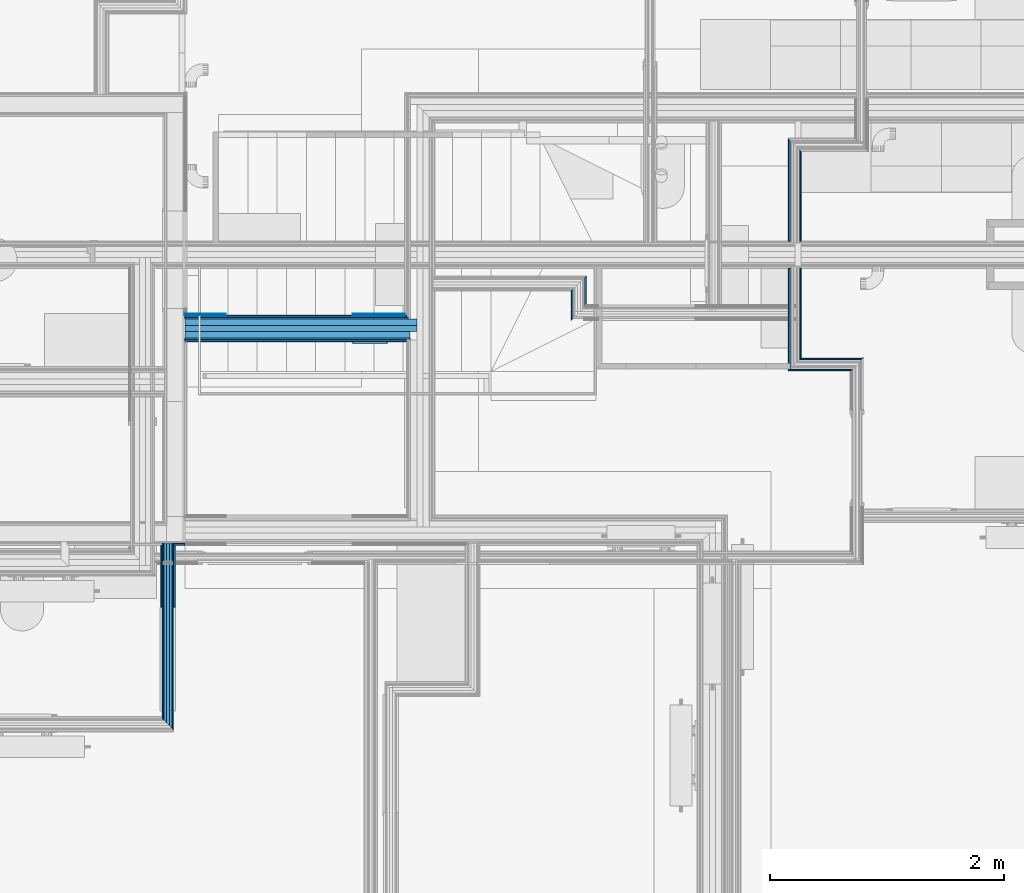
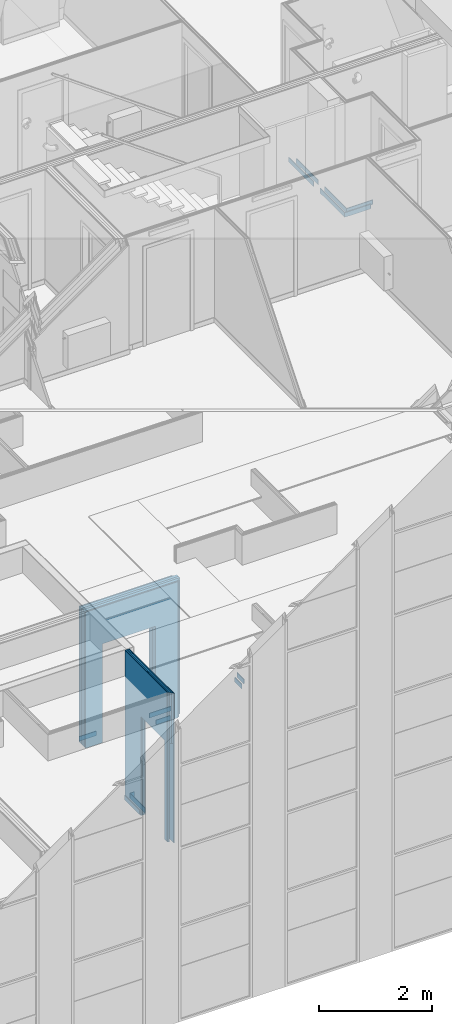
# One storey, part 63 of 169: 25 building element parts, 2 openings, 7 elements without a shape of their own.
"""IFC2X3 building model written with IfcOpenShell, lengths in metres."""

from ifc_helpers import new_model, entity, si_unit, converted_unit, derived_unit, money_unit, direction, frame, frame_2d, origin_with_axes, place, context, subcontext, project, spatial, polyline, rectangle, outline, extrude, material, type_object, element, aggregate, save


model = new_model("IFC2X3")

# Units and contexts
model_context = context("Model", 3, precision=1e-05, world=origin_with_axes(), true_north=direction((0.0, 1.0)))
body_context = subcontext(model_context, "Body", "Model", "MODEL_VIEW", scale=1.0)
ifc_project = project(units=[si_unit("LENGTHUNIT", "METRE"), si_unit("AREAUNIT", "SQUARE_METRE"), si_unit("VOLUMEUNIT", "CUBIC_METRE"), si_unit("ABSORBEDDOSEUNIT", "GRAY"), si_unit("AMOUNTOFSUBSTANCEUNIT", "MOLE"), si_unit("DOSEEQUIVALENTUNIT", "SIEVERT"), si_unit("ELECTRICCAPACITANCEUNIT", "FARAD"), si_unit("ELECTRICCHARGEUNIT", "COULOMB"), si_unit("ELECTRICCONDUCTANCEUNIT", "SIEMENS"), si_unit("ELECTRICCURRENTUNIT", "AMPERE"), si_unit("ELECTRICRESISTANCEUNIT", "OHM"), si_unit("ELECTRICVOLTAGEUNIT", "VOLT"), si_unit("ENERGYUNIT", "JOULE"), si_unit("FORCEUNIT", "NEWTON"), si_unit("FREQUENCYUNIT", "HERTZ"), si_unit("ILLUMINANCEUNIT", "LUX"), si_unit("INDUCTANCEUNIT", "HENRY"), si_unit("LUMINOUSFLUXUNIT", "LUMEN"), si_unit("LUMINOUSINTENSITYUNIT", "CANDELA"), si_unit("MAGNETICFLUXDENSITYUNIT", "TESLA"), si_unit("MAGNETICFLUXUNIT", "WEBER"), si_unit("MASSUNIT", "GRAM"), converted_unit("PLANEANGLEUNIT", "degree", entity("IfcReal", 0.0174532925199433), si_unit("PLANEANGLEUNIT", "RADIAN"), dimensions=[0, 0, 0, 0, 0, 0, 0]), si_unit("POWERUNIT", "WATT"), si_unit("PRESSUREUNIT", "PASCAL"), si_unit("RADIOACTIVITYUNIT", "BECQUEREL"), si_unit("SOLIDANGLEUNIT", "STERADIAN"), si_unit("THERMODYNAMICTEMPERATUREUNIT", "KELVIN"), si_unit("TIMEUNIT", "SECOND"), derived_unit("ACCELERATIONUNIT", [(si_unit("LENGTHUNIT", "METRE"), 1), (si_unit("TIMEUNIT", "SECOND"), -2)]), derived_unit("ANGULARVELOCITYUNIT", [(converted_unit("PLANEANGLEUNIT", "degree", entity("IfcReal", 0.0174532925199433), si_unit("PLANEANGLEUNIT", "RADIAN"), dimensions=[0, 0, 0, 0, 0, 0, 0]), 1), (si_unit("TIMEUNIT", "SECOND"), -1)]), derived_unit("CURVATUREUNIT", [(converted_unit("PLANEANGLEUNIT", "degree", entity("IfcReal", 0.0174532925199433), si_unit("PLANEANGLEUNIT", "RADIAN"), dimensions=[0, 0, 0, 0, 0, 0, 0]), 1), (si_unit("LENGTHUNIT", "METRE"), -1)]), derived_unit("DYNAMICVISCOSITYUNIT", [(si_unit("PRESSUREUNIT", "PASCAL"), 1), (si_unit("TIMEUNIT", "SECOND"), 1)]), derived_unit("HEATFLUXDENSITYUNIT", [(si_unit("POWERUNIT", "WATT"), 1), (si_unit("LENGTHUNIT", "METRE"), -2)]), derived_unit("HEATINGVALUEUNIT", [(si_unit("ENERGYUNIT", "JOULE"), 1), (si_unit("MASSUNIT", "GRAM"), -1)]), derived_unit("INTEGERCOUNTRATEUNIT", [(si_unit("TIMEUNIT", "SECOND"), -1)]), derived_unit("IONCONCENTRATIONUNIT", [(si_unit("MASSUNIT", "GRAM"), 1), (si_unit("VOLUMEUNIT", "CUBIC_METRE"), -1)]), derived_unit("ISOTHERMALMOISTURECAPACITYUNIT", [(si_unit("VOLUMEUNIT", "CUBIC_METRE"), 1), (si_unit("MASSUNIT", "GRAM"), -1)]), derived_unit("KINEMATICVISCOSITYUNIT", [(si_unit("AREAUNIT", "SQUARE_METRE"), 1), (si_unit("TIMEUNIT", "SECOND"), -1)]), derived_unit("LINEARFORCEUNIT", [(si_unit("FORCEUNIT", "NEWTON"), 1), (si_unit("LENGTHUNIT", "METRE"), -1)]), derived_unit("LINEARMOMENTUNIT", [(si_unit("FORCEUNIT", "NEWTON"), 1), (si_unit("LENGTHUNIT", "METRE"), -1)]), derived_unit("LINEARSTIFFNESSUNIT", [(si_unit("FORCEUNIT", "NEWTON"), 1), (si_unit("LENGTHUNIT", "METRE"), -1)]), derived_unit("LINEARVELOCITYUNIT", [(si_unit("LENGTHUNIT", "METRE"), 1), (si_unit("TIMEUNIT", "SECOND"), -1)]), derived_unit("LUMINOUSINTENSITYDISTRIBUTIONUNIT", [(si_unit("LUMINOUSINTENSITYUNIT", "CANDELA"), 1), (si_unit("LUMINOUSFLUXUNIT", "LUMEN"), -1)]), derived_unit("MASSDENSITYUNIT", [(si_unit("MASSUNIT", "GRAM"), 1), (si_unit("VOLUMEUNIT", "CUBIC_METRE"), -1)]), derived_unit("MASSFLOWRATEUNIT", [(si_unit("MASSUNIT", "GRAM"), 1), (si_unit("TIMEUNIT", "SECOND"), -1)]), derived_unit("MASSPERLENGTHUNIT", [(si_unit("MASSUNIT", "GRAM"), 1), (si_unit("LENGTHUNIT", "METRE"), -1)]), derived_unit("MODULUSOFELASTICITYUNIT", [(si_unit("FORCEUNIT", "NEWTON"), 1), (si_unit("AREAUNIT", "SQUARE_METRE"), -1)]), derived_unit("MODULUSOFLINEARSUBGRADEREACTIONUNIT", [(si_unit("FORCEUNIT", "NEWTON"), 1), (si_unit("LENGTHUNIT", "METRE"), -2)]), derived_unit("MODULUSOFROTATIONALSUBGRADEREACTIONUNIT", [(si_unit("FORCEUNIT", "NEWTON"), 1), (si_unit("LENGTHUNIT", "METRE"), 1)]), derived_unit("MODULUSOFSUBGRADEREACTIONUNIT", [(si_unit("FORCEUNIT", "NEWTON"), 1), (si_unit("VOLUMEUNIT", "CUBIC_METRE"), -1)]), derived_unit("MOISTUREDIFFUSIVITYUNIT", [(si_unit("VOLUMEUNIT", "CUBIC_METRE"), 1), (si_unit("TIMEUNIT", "SECOND"), -1)]), derived_unit("MOLECULARWEIGHTUNIT", [(si_unit("MASSUNIT", "GRAM"), 1), (si_unit("AMOUNTOFSUBSTANCEUNIT", "MOLE"), -1)]), derived_unit("PLANARFORCEUNIT", [(si_unit("FORCEUNIT", "NEWTON"), 1), (si_unit("LENGTHUNIT", "METRE"), -2)]), derived_unit("ROTATIONALFREQUENCYUNIT", [(si_unit("TIMEUNIT", "SECOND"), -1)]), derived_unit("ROTATIONALMASSUNIT", [(si_unit("MASSUNIT", "GRAM"), 1), (si_unit("LENGTHUNIT", "METRE"), 2)]), derived_unit("ROTATIONALSTIFFNESSUNIT", [(si_unit("FORCEUNIT", "NEWTON"), 1), (si_unit("LENGTHUNIT", "METRE"), 1), (converted_unit("PLANEANGLEUNIT", "degree", entity("IfcReal", 0.0174532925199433), si_unit("PLANEANGLEUNIT", "RADIAN"), dimensions=[0, 0, 0, 0, 0, 0, 0]), -1)]), derived_unit("SECTIONAREAINTEGRALUNIT", [(si_unit("LENGTHUNIT", "METRE"), 5)]), derived_unit("SECTIONMODULUSUNIT", [(si_unit("LENGTHUNIT", "METRE"), 3)]), derived_unit("SHEARMODULUSUNIT", [(si_unit("FORCEUNIT", "NEWTON"), 1), (si_unit("AREAUNIT", "SQUARE_METRE"), -1)]), derived_unit("SOUNDPOWERUNIT", [(si_unit("ENERGYUNIT", "JOULE"), 1), (si_unit("TIMEUNIT", "SECOND"), -1)]), derived_unit("SPECIFICHEATCAPACITYUNIT", [(si_unit("FORCEUNIT", "NEWTON"), 1), (si_unit("MASSUNIT", "GRAM"), -1), (si_unit("THERMODYNAMICTEMPERATUREUNIT", "KELVIN"), -1)]), derived_unit("TEMPERATUREGRADIENTUNIT", [(si_unit("THERMODYNAMICTEMPERATUREUNIT", "KELVIN"), 1), (si_unit("LENGTHUNIT", "METRE"), -1)]), derived_unit("THERMALADMITTANCEUNIT", [(si_unit("POWERUNIT", "WATT"), 1), (si_unit("AREAUNIT", "SQUARE_METRE"), -1), (si_unit("THERMODYNAMICTEMPERATUREUNIT", "KELVIN"), -1)]), derived_unit("THERMALCONDUCTANCEUNIT", [(si_unit("POWERUNIT", "WATT"), 1), (si_unit("LENGTHUNIT", "METRE"), -1), (si_unit("THERMODYNAMICTEMPERATUREUNIT", "KELVIN"), -1)]), derived_unit("THERMALEXPANSIONCOEFFICIENTUNIT", [(si_unit("THERMODYNAMICTEMPERATUREUNIT", "KELVIN"), -1)]), derived_unit("THERMALRESISTANCEUNIT", [(si_unit("AREAUNIT", "SQUARE_METRE"), 1), (si_unit("POWERUNIT", "WATT"), -1)]), derived_unit("THERMALTRANSMITTANCEUNIT", [(si_unit("POWERUNIT", "WATT"), 1), (si_unit("AREAUNIT", "SQUARE_METRE"), -1), (si_unit("THERMODYNAMICTEMPERATUREUNIT", "KELVIN"), -1)]), derived_unit("TORQUEUNIT", [(si_unit("FORCEUNIT", "NEWTON"), 1), (si_unit("LENGTHUNIT", "METRE"), 1)]), derived_unit("VAPORPERMEABILITYUNIT", [(si_unit("MASSUNIT", "GRAM"), 1), (si_unit("TIMEUNIT", "SECOND"), -1)]), derived_unit("VOLUMETRICFLOWRATEUNIT", [(si_unit("VOLUMEUNIT", "CUBIC_METRE"), 1), (si_unit("TIMEUNIT", "SECOND"), -1)]), derived_unit("WARPINGCONSTANTUNIT", [(si_unit("LENGTHUNIT", "METRE"), 6)]), derived_unit("WARPINGMOMENTUNIT", [(si_unit("FORCEUNIT", "NEWTON"), 1), (si_unit("LENGTHUNIT", "METRE"), 2)]), money_unit("GBP")], contexts=[model_context])

# Site, building, storey
site_placement = place(None, origin_with_axes())
site = spatial("IfcSite", under=ifc_project, at=site_placement, Name="Site", CompositionType="ELEMENT")
building_placement = place(site_placement, origin_with_axes())
building = spatial("IfcBuilding", under=site, at=building_placement, Name="Building01", CompositionType="ELEMENT")
storey_placement = place(building_placement, frame((0.0, 0.0, 5.15), z_axis=(0.0, 0.0, 1.0), x_axis=(1.0, 0.0, 0.0)))
storey = spatial("IfcBuildingStorey", under=building, at=storey_placement, Name="1F", CompositionType="ELEMENT", Elevation=5.15)

# Wall, opening, building element parts
wall_type_1 = type_object("IfcWallType", Name="SHE_A-Walls_Type01c_Partywall_225mm_twin_tall", PredefinedType="NOTDEFINED")
wall_1_placement = place(storey_placement, frame((18.0, 6.793, 0.0), z_axis=(0.0, 0.0, 1.0), x_axis=(1.0, 0.0, 0.0)))
wall_1 = element("IfcWall", 1, at=wall_1_placement, inside=storey, type_object=wall_type_1, Name="1C", ObjectType="SHE_A-Walls_Type01c_Partywall_225mm_twin_tall")
opening_1_placement = place(wall_1_placement, frame((0.353, -0.103, -0.03), z_axis=(0.0, 0.0, 1.0), x_axis=(1.0, 0.0, 0.0)))
element("IfcOpeningElement", 2, at=opening_1_placement, cuts=wall_1, Name="Opening", ObjectType="Opening", context=body_context, shape_type="SweptSolid", body=[
    extrude(rectangle(XDim=2.142, YDim=1.081, at=frame_2d((-0.5405, 1.071), x_axis=(0.0, -1.0))), frame((0.0, 0.0, 0.0), z_axis=(0.0, 1.0, 0.0), x_axis=(-1.0, 0.0, 0.0)), (0.0, 0.0, 1.0), 0.255),
    extrude(rectangle(XDim=1.084, YDim=2.172, at=frame_2d((-0.539, 1.086), x_axis=(1.0, 0.0))), frame((0.0, 0.015, 0.0), z_axis=(0.0, 1.0, 0.0), x_axis=(-1.0, 0.0, 0.0)), (0.0, 0.0, 1.0), 0.015),
    extrude(rectangle(XDim=2.142, YDim=1.084, at=frame_2d((-0.542, 1.071), x_axis=(0.0, -1.0))), frame((0.0, 0.0, 0.0), z_axis=(0.0, 1.0, 0.0), x_axis=(-1.0, 0.0, 0.0)), (0.0, 0.0, 1.0), 0.015),
    extrude(outline(polyline([(0.0, 0.03), (0.003, 0.03), (0.003, 2.172), (-1.081, 2.172), (-1.081, 2.142), (-1.084, 2.142), (-1.084, 0.0), (0.0, 0.0), (0.0, 0.03)])), frame((0.0, 0.03, 0.0), z_axis=(0.0, 1.0, 0.0), x_axis=(-1.0, 0.0, 0.0)), (0.0, 0.0, 1.0), 0.015),
    extrude(outline(polyline([(0.0, 0.03), (0.003, 0.03), (0.003, 2.172), (-1.081, 2.172), (-1.081, 2.142), (-1.084, 2.142), (-1.084, 0.0), (0.0, 0.0), (0.0, 0.03)])), frame((0.0, 0.045, 0.0), z_axis=(0.0, 1.0, 0.0), x_axis=(-1.0, 0.0, 0.0)), (0.0, 0.0, 1.0), 0.058),
    extrude(outline(polyline([(0.0, 0.03), (0.003, 0.03), (0.003, 2.172), (-1.081, 2.172), (-1.081, 2.142), (-1.084, 2.142), (-1.084, 0.0), (0.0, 0.0), (0.0, 0.03)])), frame((0.0, 0.103, 0.0), z_axis=(0.0, 1.0, 0.0), x_axis=(-1.0, 0.0, 0.0)), (0.0, 0.0, 1.0), 0.05),
    extrude(outline(polyline([(0.0, 0.03), (0.003, 0.03), (0.003, 2.172), (-1.081, 2.172), (-1.081, 2.142), (-1.084, 2.142), (-1.084, 0.0), (0.0, 0.0), (0.0, 0.03)])), frame((0.0, 0.153, 0.0), z_axis=(0.0, 1.0, 0.0), x_axis=(-1.0, 0.0, 0.0)), (0.0, 0.0, 1.0), 0.057),
    extrude(outline(polyline([(0.0, 0.03), (0.003, 0.03), (0.003, 2.172), (-1.081, 2.172), (-1.081, 2.142), (-1.084, 2.142), (-1.084, 0.0), (0.0, 0.0), (0.0, 0.03)])), frame((0.0, 0.21, 0.0), z_axis=(0.0, 1.0, 0.0), x_axis=(-1.0, 0.0, 0.0)), (0.0, 0.0, 1.0), 0.015),
    extrude(rectangle(XDim=1.084, YDim=2.172, at=frame_2d((-0.539, 1.086), x_axis=(1.0, 0.0))), frame((0.0, 0.225, 0.0), z_axis=(0.0, 1.0, 0.0), x_axis=(-1.0, 0.0, 0.0)), (0.0, 0.0, 1.0), 0.015),
    extrude(outline(polyline([(0.0, 0.03), (0.003, 0.03), (0.003, 2.172), (-1.081, 2.172), (-1.081, 2.142), (-1.084, 2.142), (-1.084, 0.0), (0.0, 0.0), (0.0, 0.03)])), frame((0.0, 0.24, 0.0), z_axis=(0.0, 1.0, 0.0), x_axis=(-1.0, 0.0, 0.0)), (0.0, 0.0, 1.0), 0.015),
])
ifc_material_1 = material(Name="A_BSUK_Walls_Timber")
placement_1 = place(wall_1_placement, origin_with_axes())
building_element_part_1 = element("IfcBuildingElementPart", 3, at=placement_1, material=ifc_material_1, Name="1", context=body_context, shape_type="SweptSolid", body=[
    extrude(rectangle(XDim=0.401969, YDim=0.015, at=frame_2d((1.529984, -0.0955), x_axis=(-1.0, 0.0))), frame((0.0, 0.0, 0.015), z_axis=(0.0, 0.0, 1.0), x_axis=(1.0, 0.0, 0.0)), (0.0, 0.0, 1.0), 0.1),
])
ifc_material_2 = material(Name="A_BSUK_WallInternal_Finishes_Plasterboard")
building_element_part_2 = element("IfcBuildingElementPart", 4, at=placement_1, material=ifc_material_2, Name="2", context=body_context, shape_type="SweptSolid", body=[
    extrude(rectangle(XDim=1.897661, YDim=0.015, at=frame_2d((0.948831, -0.0805), x_axis=(-1.0, 0.0))), origin_with_axes(), (0.0, 0.0, 1.0), 2.95),
])
building_element_part_3 = element("IfcBuildingElementPart", 5, at=placement_1, material=ifc_material_2, Name="3", context=body_context, shape_type="SweptSolid", body=[
    extrude(rectangle(XDim=1.927661, YDim=0.015, at=frame_2d((0.963831, -0.0655), x_axis=(-1.0, 0.0))), origin_with_axes(), (0.0, 0.0, 1.0), 2.95),
])
ifc_material_3 = material(Name="Air Cavity")
building_element_part_4 = element("IfcBuildingElementPart", 6, at=placement_1, material=ifc_material_3, Name="4", context=body_context, shape_type="SweptSolid", body=[
    extrude(rectangle(XDim=1.927661, YDim=0.058, at=frame_2d((0.963831, -0.029), x_axis=(-1.0, 0.0))), origin_with_axes(), (0.0, 0.0, 1.0), 2.95),
])
ifc_material_4 = material(Name="A_BSUK_Insulation")
building_element_part_5 = element("IfcBuildingElementPart", 7, at=placement_1, material=ifc_material_4, Name="5", context=body_context, shape_type="SweptSolid", body=[
    extrude(rectangle(XDim=1.985661, YDim=0.05, at=frame_2d((0.992831, 0.025), x_axis=(-1.0, 0.0))), origin_with_axes(), (0.0, 0.0, 1.0), 2.95),
])
building_element_part_6 = element("IfcBuildingElementPart", 8, at=placement_1, material=ifc_material_3, Name="6", context=body_context, shape_type="SweptSolid", body=[
    extrude(rectangle(XDim=1.985661, YDim=0.057, at=frame_2d((0.992831, 0.0785), x_axis=(-1.0, 0.0))), origin_with_axes(), (0.0, 0.0, 1.0), 2.95),
])
building_element_part_7 = element("IfcBuildingElementPart", 9, at=placement_1, material=ifc_material_2, Name="7", context=body_context, shape_type="SweptSolid", body=[
    extrude(rectangle(XDim=1.912661, YDim=0.015, at=frame_2d((0.956331, 0.1145), x_axis=(-1.0, 0.0))), origin_with_axes(), (0.0, 0.0, 1.0), 2.95),
])
building_element_part_8 = element("IfcBuildingElementPart", 10, at=placement_1, material=ifc_material_2, Name="8", context=body_context, shape_type="SweptSolid", body=[
    extrude(rectangle(XDim=1.897661, YDim=0.015, at=frame_2d((0.948831, 0.1295), x_axis=(-1.0, 0.0))), origin_with_axes(), (0.0, 0.0, 1.0), 2.95),
])
building_element_part_9 = element("IfcBuildingElementPart", 11, at=placement_1, material=ifc_material_1, Name="9", context=body_context, shape_type="SweptSolid", body=[
    extrude(rectangle(XDim=1.882661, YDim=0.015, at=frame_2d((0.941331, 0.1445), x_axis=(-1.0, 0.0))), frame((0.0, 0.0, 0.015), z_axis=(0.0, 0.0, 1.0), x_axis=(1.0, 0.0, 0.0)), (0.0, 0.0, 1.0), 0.1),
])
aggregate(wall_1, [building_element_part_1, building_element_part_2, building_element_part_3, building_element_part_4, building_element_part_5, building_element_part_6, building_element_part_7, building_element_part_8, building_element_part_9])

# Wall, building element parts
wall_type_2 = type_object("IfcWallType", Name="SHE_A-Walls_Type05a_Partition_95mm_tall", PredefinedType="NOTDEFINED")
wall_2_placement = place(storey_placement, frame((21.382661, 6.965, 0.0), z_axis=(0.0, 0.0, 1.0), x_axis=(0.0, 1.0, 0.0)))
wall_2 = element("IfcWall", 12, at=wall_2_placement, inside=storey, type_object=wall_type_2, Name="5A", ObjectType="SHE_A-Walls_Type05a_Partition_95mm_tall")
placement_2 = place(wall_2_placement, origin_with_axes())
building_element_part_10 = element("IfcBuildingElementPart", 13, at=placement_2, material=ifc_material_1, Name="1", context=body_context, shape_type="SweptSolid", body=[
    extrude(outline(polyline([(0.285, -0.035), (0.035, -0.035), (0.05, -0.05), (0.3, -0.05), (0.285, -0.035)])), frame((0.0, 0.0, 0.015), z_axis=(0.0, 0.0, 1.0), x_axis=(1.0, 0.0, 0.0)), (0.0, 0.0, 1.0), 0.1),
])
building_element_part_11 = element("IfcBuildingElementPart", 14, at=placement_2, material=ifc_material_1, Name="7", context=body_context, shape_type="SweptSolid", body=[
    extrude(outline(polyline([(0.175, 0.075), (-0.075, 0.075), (-0.06, 0.06), (0.19, 0.06), (0.175, 0.075)])), frame((0.0, 0.0, 0.015), z_axis=(0.0, 0.0, 1.0), x_axis=(1.0, 0.0, 0.0)), (0.0, 0.0, 1.0), 0.1),
])
aggregate(wall_2, [building_element_part_10, building_element_part_11])

# Wall, opening, building element parts
wall_3_placement = place(storey_placement, frame((17.8675, 4.98, 0.0), z_axis=(0.0, 0.0, 1.0), x_axis=(0.0, -1.0, 0.0)))
wall_3 = element("IfcWall", 15, at=wall_3_placement, inside=storey, type_object=wall_type_2, Name="5A", ObjectType="SHE_A-Walls_Type05a_Partition_95mm_tall")
opening_2_placement = place(wall_3_placement, frame((0.574219, -0.06, -0.015), z_axis=(0.0, 0.0, 1.0), x_axis=(1.0, 0.0, 0.0)))
element("IfcOpeningElement", 16, at=opening_2_placement, cuts=wall_3, Name="Opening", ObjectType="Recess", context=body_context, shape_type="SweptSolid", body=[
    extrude(rectangle(XDim=0.834, YDim=2.157, at=frame_2d((-0.417, 1.0785), x_axis=(-1.0, 0.0))), frame((0.0, 0.0, 0.0), z_axis=(0.0, 1.0, 0.0), x_axis=(-1.0, 0.0, 0.0)), (0.0, 0.0, 1.0), 0.095),
    extrude(outline(polyline([(0.0, 2.157), (-1.034, 2.157), (-1.034, 0.015), (-0.834, 0.015), (-0.834, 0.0), (0.0, 0.0), (0.0, 2.157)])), frame((0.0, 0.035, 0.0), z_axis=(0.0, 1.0, 0.0), x_axis=(-1.0, 0.0, 0.0)), (0.0, 0.0, 1.0), 0.025),
    extrude(outline(polyline([(0.0, 2.157), (-1.034, 2.157), (-1.034, 0.015), (-0.834, 0.015), (-0.834, 0.0), (0.0, 0.0), (0.0, 2.157)])), frame((0.0, 0.06, 0.0), z_axis=(0.0, 1.0, 0.0), x_axis=(-1.0, 0.0, 0.0)), (0.0, 0.0, 1.0), 0.023),
])
placement_3 = place(wall_3_placement, origin_with_axes())
building_element_part_12 = element("IfcBuildingElementPart", 17, at=placement_3, material=ifc_material_1, Name="1", context=body_context, shape_type="SweptSolid", body=[
    extrude(rectangle(XDim=0.015, YDim=0.532219, at=frame_2d((0.28111, -0.0675), x_axis=(0.0, -1.0))), frame((0.0, 0.0, 0.015), z_axis=(0.0, 0.0, 1.0), x_axis=(1.0, 0.0, 0.0)), (0.0, 0.0, 1.0), 0.1),
])
building_element_part_13 = element("IfcBuildingElementPart", 18, at=placement_3, material=ifc_material_2, Name="2", context=body_context, shape_type="SweptSolid", body=[
    extrude(outline(polyline([(1.512, -0.048), (0.0, -0.048), (0.0, -0.06), (1.5, -0.06), (1.512, -0.048)])), origin_with_axes(), (0.0, 0.0, 1.0), 3.24),
])
building_element_part_14 = element("IfcBuildingElementPart", 19, at=placement_3, material=ifc_material_3, Name="3", context=body_context, shape_type="SweptSolid", body=[
    extrude(outline(polyline([(1.535, -0.025), (0.0, -0.025), (0.0, -0.048), (1.512, -0.048), (1.535, -0.025)])), origin_with_axes(), (0.0, 0.0, 1.0), 3.24),
])
building_element_part_15 = element("IfcBuildingElementPart", 20, at=placement_3, material=ifc_material_4, Name="4", context=body_context, shape_type="SweptSolid", body=[
    extrude(outline(polyline([(1.56, 0.0), (0.0, 0.0), (0.0, -0.025), (1.535, -0.025), (1.56, 0.0)])), origin_with_axes(), (0.0, 0.0, 1.0), 3.24),
])
building_element_part_16 = element("IfcBuildingElementPart", 21, at=placement_3, material=ifc_material_3, Name="5", context=body_context, shape_type="SweptSolid", body=[
    extrude(outline(polyline([(1.583, 0.023), (0.0, 0.023), (0.0, 0.0), (1.56, 0.0), (1.583, 0.023)])), origin_with_axes(), (0.0, 0.0, 1.0), 3.24),
])
building_element_part_17 = element("IfcBuildingElementPart", 22, at=placement_3, material=ifc_material_2, Name="6", context=body_context, shape_type="SweptSolid", body=[
    extrude(outline(polyline([(1.595, 0.035), (0.0, 0.035), (0.0, 0.023), (1.583, 0.023), (1.595, 0.035)])), origin_with_axes(), (0.0, 0.0, 1.0), 3.24),
])
building_element_part_18 = element("IfcBuildingElementPart", 23, at=placement_3, material=ifc_material_1, Name="7", context=body_context, shape_type="SweptSolid", body=[
    extrude(rectangle(XDim=0.015, YDim=0.532219, at=frame_2d((0.28111, 0.0425), x_axis=(0.0, -1.0))), frame((0.0, 0.0, 0.015), z_axis=(0.0, 0.0, 1.0), x_axis=(1.0, 0.0, 0.0)), (0.0, 0.0, 1.0), 0.1),
])
aggregate(wall_3, [building_element_part_12, building_element_part_13, building_element_part_14, building_element_part_15, building_element_part_16, building_element_part_17, building_element_part_18])

# Wall, building element part
wall_type_3 = type_object("IfcWallType", Name="SHE_A-Walls_Type03a_BlockworkWall_170mm", PredefinedType="NOTDEFINED")
wall_4_placement = place(storey_placement, frame((9.215, 4.995, 0.0), z_axis=(0.0, 0.0, 1.0), x_axis=(1.0, 0.0, 0.0)))
wall_4 = element("IfcWall", 24, at=wall_4_placement, inside=storey, type_object=wall_type_3, Name="4B", ObjectType="SHE_A-Walls_Type03a_BlockworkWall_170mm")
building_element_part_19_placement = place(wall_4_placement, origin_with_axes())
building_element_part_19 = element("IfcBuildingElementPart", 25, at=building_element_part_19_placement, material=ifc_material_1, Name="3", context=body_context, shape_type="SweptSolid", body=[
    extrude(rectangle(XDim=0.015, YDim=0.0975, at=frame_2d((8.73625, -0.0225), x_axis=(0.0, -1.0))), frame((0.0, 0.0, 0.015), z_axis=(0.0, 0.0, 1.0), x_axis=(1.0, 0.0, 0.0)), (0.0, 0.0, 1.0), 0.1),
])
aggregate(wall_4, [building_element_part_19])

# Wall, building element parts
wall_type_4 = type_object("IfcWallType", Name="SHE_A-Walls_Type05b_Partition_80mm", PredefinedType="NOTDEFINED")
wall_5_placement = place(storey_placement, frame((23.206821, 6.498085, 9.83), z_axis=(0.0, 0.0, 1.0), x_axis=(1.0, 0.0, 0.0)))
wall_5 = element("IfcWall", 26, at=wall_5_placement, inside=storey, type_object=wall_type_4, Name="5B", ObjectType="SHE_A-Walls_Type05b_Partition_80mm")
placement_4 = place(wall_5_placement, origin_with_axes())
building_element_part_20 = element("IfcBuildingElementPart", 27, at=placement_4, material=ifc_material_1, Name="1", context=body_context, shape_type="SweptSolid", body=[
    extrude(outline(polyline([(0.503179, -0.028), (-0.028, -0.028), (-0.043, -0.043), (0.488179, -0.043), (0.503179, -0.028)])), frame((0.0, 0.0, 0.015), z_axis=(0.0, 0.0, 1.0), x_axis=(1.0, 0.0, 0.0)), (0.0, 0.0, 1.0), 0.1),
])
building_element_part_21 = element("IfcBuildingElementPart", 28, at=placement_4, material=ifc_material_1, Name="7", context=body_context, shape_type="SweptSolid", body=[
    extrude(outline(polyline([(0.598179, 0.067), (0.067, 0.067), (0.052, 0.052), (0.583179, 0.052), (0.598179, 0.067)])), frame((0.0, 0.0, 0.015), z_axis=(0.0, 0.0, 1.0), x_axis=(1.0, 0.0, 0.0)), (0.0, 0.0, 1.0), 0.1),
])
aggregate(wall_5, [building_element_part_20, building_element_part_21])

wall_6_placement = place(storey_placement, frame((23.206821, 7.549915, 9.83), z_axis=(0.0, 0.0, 1.0), x_axis=(0.0, 1.0, 0.0)))
wall_6 = element("IfcWall", 29, at=wall_6_placement, inside=storey, type_object=wall_type_4, Name="5B", ObjectType="SHE_A-Walls_Type05b_Partition_80mm")
placement_5 = place(wall_6_placement, origin_with_axes())
building_element_part_22 = element("IfcBuildingElementPart", 30, at=placement_5, material=ifc_material_1, Name="1", context=body_context, shape_type="SweptSolid", body=[
    extrude(outline(polyline([(0.8, -0.052), (0.015, -0.052), (0.015, -0.067), (0.785, -0.067), (0.8, -0.052)])), frame((0.0, 0.0, 0.015), z_axis=(0.0, 0.0, 1.0), x_axis=(1.0, 0.0, 0.0)), (0.0, 0.0, 1.0), 0.1),
])
building_element_part_23 = element("IfcBuildingElementPart", 31, at=placement_5, material=ifc_material_1, Name="7", context=body_context, shape_type="SweptSolid", body=[
    extrude(outline(polyline([(0.895, 0.043), (0.015, 0.043), (0.015, 0.028), (0.88, 0.028), (0.895, 0.043)])), frame((0.0, 0.0, 0.015), z_axis=(0.0, 0.0, 1.0), x_axis=(1.0, 0.0, 0.0)), (0.0, 0.0, 1.0), 0.1),
])
aggregate(wall_6, [building_element_part_22, building_element_part_23])

wall_7_placement = place(storey_placement, frame((23.206821, 7.349915, 9.83), z_axis=(0.0, 0.0, 1.0), x_axis=(0.0, -1.0, 0.0)))
wall_7 = element("IfcWall", 32, at=wall_7_placement, inside=storey, type_object=wall_type_4, Name="5B", ObjectType="SHE_A-Walls_Type05b_Partition_80mm")
placement_6 = place(wall_7_placement, origin_with_axes())
building_element_part_24 = element("IfcBuildingElementPart", 33, at=placement_6, material=ifc_material_1, Name="1", context=body_context, shape_type="SweptSolid", body=[
    extrude(outline(polyline([(0.87983, -0.028), (0.015, -0.028), (0.015, -0.043), (0.89483, -0.043), (0.87983, -0.028)])), frame((0.0, 0.0, 0.015), z_axis=(0.0, 0.0, 1.0), x_axis=(1.0, 0.0, 0.0)), (0.0, 0.0, 1.0), 0.1),
])
building_element_part_25 = element("IfcBuildingElementPart", 34, at=placement_6, material=ifc_material_1, Name="7", context=body_context, shape_type="SweptSolid", body=[
    extrude(outline(polyline([(0.78483, 0.067), (0.015, 0.067), (0.015, 0.052), (0.79983, 0.052), (0.78483, 0.067)])), frame((0.0, 0.0, 0.015), z_axis=(0.0, 0.0, 1.0), x_axis=(1.0, 0.0, 0.0)), (0.0, 0.0, 1.0), 0.1),
])
aggregate(wall_7, [building_element_part_24, building_element_part_25])

save(model, "model.ifc")
